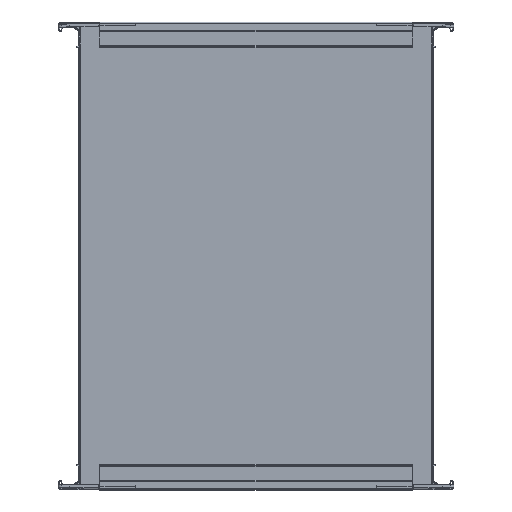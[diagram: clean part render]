
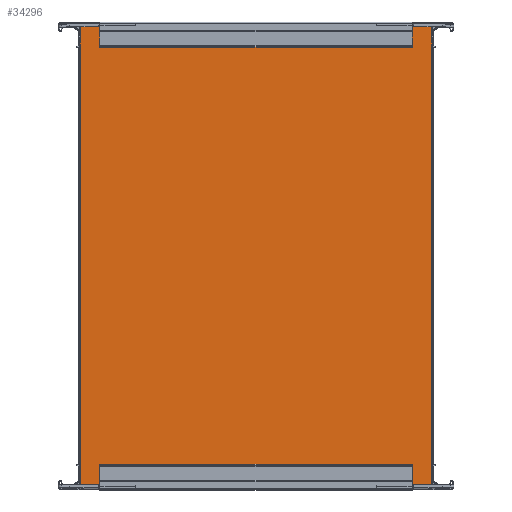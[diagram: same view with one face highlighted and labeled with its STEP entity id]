
A CAD part, top view. The second image highlights one B-rep face of the part: STEP entity #34296.
In plain terms, the highlighted planar face has unit normal (0, 0, 1).
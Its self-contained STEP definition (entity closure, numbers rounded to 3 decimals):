
#3953=FACE_OUTER_BOUND('',#5797,.T.);
#5797=EDGE_LOOP('',(#30408,#30409,#30410,#30411,#30412,#30413,#30414,#30415,
#30416,#30417,#30418,#30419));
#6772=LINE('',#47550,#9820);
#7184=LINE('',#51265,#10232);
#8030=LINE('',#55493,#11078);
#8974=LINE('',#59585,#12022);
#9488=LINE('',#63285,#12536);
#9489=LINE('',#63288,#12537);
#9514=LINE('',#63335,#12562);
#9515=LINE('',#63338,#12563);
#9522=LINE('',#63350,#12570);
#9523=LINE('',#63351,#12571);
#9524=LINE('',#63352,#12572);
#9525=LINE('',#63353,#12573);
#9820=VECTOR('',#37313,10.);
#10232=VECTOR('',#37911,10.);
#11078=VECTOR('',#40467,10.);
#12022=VECTOR('',#43391,10.);
#12536=VECTOR('',#44973,10.);
#12537=VECTOR('',#44976,10.);
#12562=VECTOR('',#45019,10.);
#12563=VECTOR('',#45022,10.);
#12570=VECTOR('',#45037,10.);
#12571=VECTOR('',#45038,10.);
#12572=VECTOR('',#45039,10.);
#12573=VECTOR('',#45040,10.);
#12917=VERTEX_POINT('',#47547);
#12918=VERTEX_POINT('',#47549);
#13411=VERTEX_POINT('',#51247);
#13419=VERTEX_POINT('',#51263);
#13463=VERTEX_POINT('',#51355);
#13628=VERTEX_POINT('',#51692);
#14419=VERTEX_POINT('',#55492);
#15314=VERTEX_POINT('',#59584);
#15732=VERTEX_POINT('',#63283);
#15733=VERTEX_POINT('',#63287);
#15746=VERTEX_POINT('',#63333);
#15747=VERTEX_POINT('',#63337);
#16261=EDGE_CURVE('',#12918,#12917,#6772,.T.);
#17007=EDGE_CURVE('',#13411,#13419,#7184,.T.);
#18395=EDGE_CURVE('',#13463,#14419,#8030,.T.);
#19863=EDGE_CURVE('',#13628,#15314,#8974,.T.);
#20612=EDGE_CURVE('',#15732,#13463,#9488,.T.);
#20613=EDGE_CURVE('',#14419,#15733,#9489,.T.);
#20638=EDGE_CURVE('',#15746,#13628,#9514,.T.);
#20639=EDGE_CURVE('',#15314,#15747,#9515,.T.);
#20646=EDGE_CURVE('',#15733,#12917,#9522,.T.);
#20647=EDGE_CURVE('',#15732,#13411,#9523,.T.);
#20648=EDGE_CURVE('',#15747,#13419,#9524,.T.);
#20649=EDGE_CURVE('',#15746,#12918,#9525,.T.);
#30408=ORIENTED_EDGE('',*,*,#16261,.T.);
#30409=ORIENTED_EDGE('',*,*,#20646,.F.);
#30410=ORIENTED_EDGE('',*,*,#20613,.F.);
#30411=ORIENTED_EDGE('',*,*,#18395,.F.);
#30412=ORIENTED_EDGE('',*,*,#20612,.F.);
#30413=ORIENTED_EDGE('',*,*,#20647,.T.);
#30414=ORIENTED_EDGE('',*,*,#17007,.T.);
#30415=ORIENTED_EDGE('',*,*,#20648,.F.);
#30416=ORIENTED_EDGE('',*,*,#20639,.F.);
#30417=ORIENTED_EDGE('',*,*,#19863,.F.);
#30418=ORIENTED_EDGE('',*,*,#20638,.F.);
#30419=ORIENTED_EDGE('',*,*,#20649,.T.);
#31253=PLANE('',#36868);
#34296=ADVANCED_FACE('',(#3953),#31253,.T.);
#36868=AXIS2_PLACEMENT_3D('',#63349,#45035,#45036);
#37313=DIRECTION('',(0.,1.,0.));
#37911=DIRECTION('',(0.,-1.,0.));
#40467=DIRECTION('',(1.,0.,0.));
#43391=DIRECTION('',(-1.,0.,0.));
#44973=DIRECTION('',(1.,0.,0.));
#44976=DIRECTION('',(1.,0.,0.));
#45019=DIRECTION('',(-1.,0.,0.));
#45022=DIRECTION('',(-1.,0.,0.));
#45035=DIRECTION('center_axis',(0.,0.,1.));
#45036=DIRECTION('ref_axis',(1.,0.,0.));
#45037=DIRECTION('',(1.,0.,0.));
#45038=DIRECTION('',(-1.,0.,0.));
#45039=DIRECTION('',(-1.,0.,0.));
#45040=DIRECTION('',(1.,0.,0.));
#47547=CARTESIAN_POINT('',(151.,200.,1.));
#47549=CARTESIAN_POINT('',(151.,-200.,1.));
#47550=CARTESIAN_POINT('',(151.,0.,1.));
#51247=CARTESIAN_POINT('',(-151.,200.,1.));
#51263=CARTESIAN_POINT('',(-151.,-200.,1.));
#51265=CARTESIAN_POINT('',(-151.,0.,1.));
#51355=CARTESIAN_POINT('',(-134.,200.,1.));
#51692=CARTESIAN_POINT('',(134.,-200.,1.));
#55492=CARTESIAN_POINT('',(134.,200.,1.));
#55493=CARTESIAN_POINT('',(-151.,200.,1.));
#59584=CARTESIAN_POINT('',(-134.,-200.,1.));
#59585=CARTESIAN_POINT('',(151.,-200.,1.));
#63283=CARTESIAN_POINT('',(-149.,200.,1.));
#63285=CARTESIAN_POINT('',(-151.,200.,1.));
#63287=CARTESIAN_POINT('',(149.,200.,1.));
#63288=CARTESIAN_POINT('',(-151.,200.,1.));
#63333=CARTESIAN_POINT('',(149.,-200.,1.));
#63335=CARTESIAN_POINT('',(151.,-200.,1.));
#63337=CARTESIAN_POINT('',(-149.,-200.,1.));
#63338=CARTESIAN_POINT('',(151.,-200.,1.));
#63349=CARTESIAN_POINT('Origin',(0.,0.,1.));
#63350=CARTESIAN_POINT('',(-75.5,200.,1.));
#63351=CARTESIAN_POINT('',(-75.5,200.,1.));
#63352=CARTESIAN_POINT('',(-75.,-200.,1.));
#63353=CARTESIAN_POINT('',(-75.,-200.,1.));
